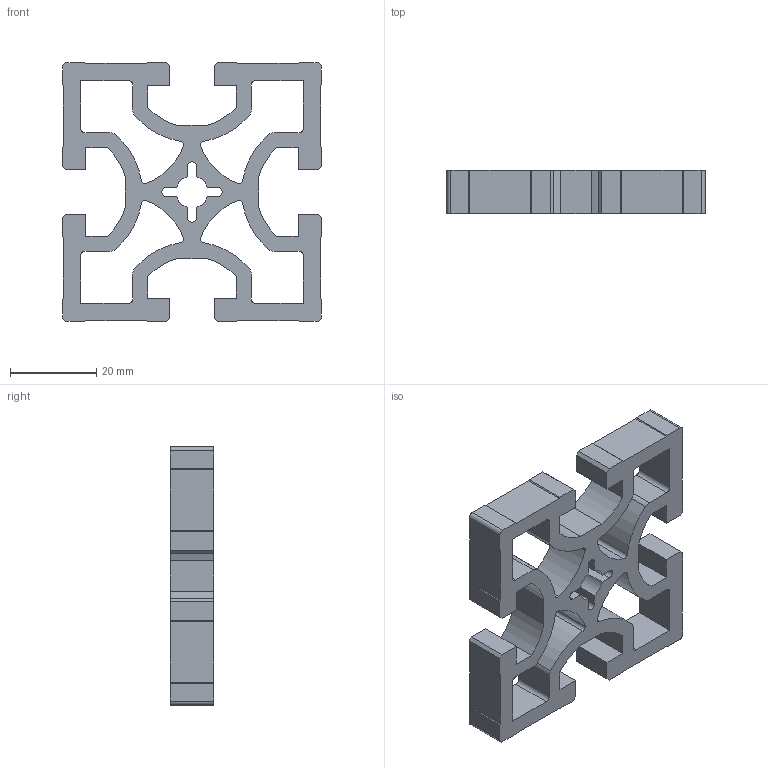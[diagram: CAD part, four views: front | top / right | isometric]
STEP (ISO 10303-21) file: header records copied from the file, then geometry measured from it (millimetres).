
FILE_DESCRIPTION((''),'2;1');
FILE_NAME('PR060060P','2002-12-27T',('Lipro doo'),('Lipro d.o.o.'),'PRO/ENGINEER BY PARAMETRIC TECHNOLOGY CORPORATION, 2001150','PRO/ENGINEER BY PARAMETRIC TECHNOLOGY CORPORATION, 2001150','');
FILE_SCHEMA(('CONFIG_CONTROL_DESIGN'));
Length unit declared in the file: millimetre
Products named in the file (1): PR060060P
Bounding box: 60 x 10 x 60 mm (x, y, z)
Volume: 15787.5 mm3; surface area: 10938.8 mm2
Topology: 1 solids, 1 shells, 158 faces, 468 edges, 312 vertices
Faces by surface type: plane 102, cylinder 56
Entity records: 5342 total; most frequent: CARTESIAN_POINT 938, ORIENTED_EDGE 936, DIRECTION 896, EDGE_CURVE 468, VECTOR 356, LINE 356, VERTEX_POINT 312, AXIS2_PLACEMENT_3D 270
